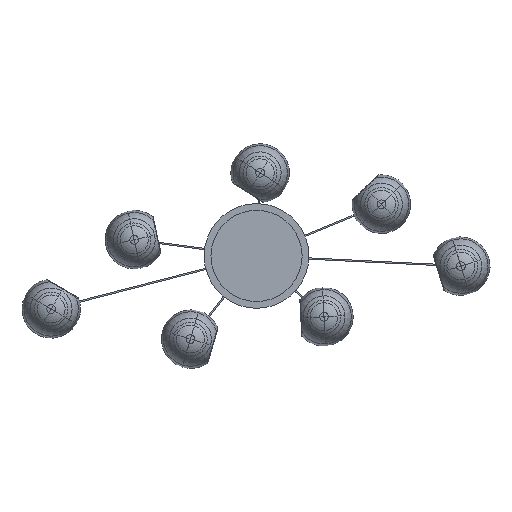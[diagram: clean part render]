
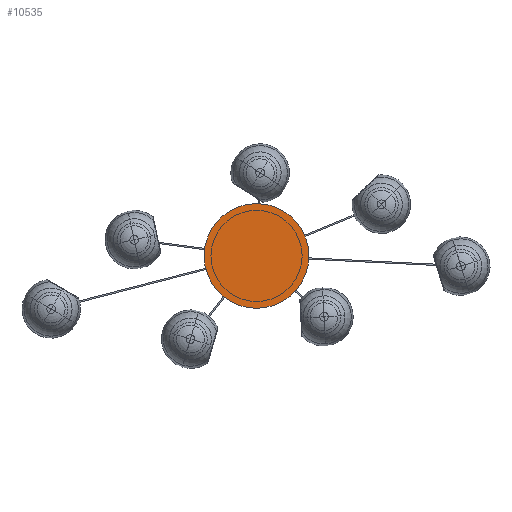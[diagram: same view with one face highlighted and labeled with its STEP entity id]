
A CAD part, front view. The second image highlights one B-rep face of the part: STEP entity #10535.
In plain terms, the highlighted planar face has unit normal (0, -1, 0).
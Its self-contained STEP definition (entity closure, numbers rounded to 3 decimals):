
#100 = CIRCLE ( 'NONE', #16973, 155. ) ;
#710 = FACE_OUTER_BOUND ( 'NONE', #3691, .T. ) ;
#1060 = ORIENTED_EDGE ( 'NONE', *, *, #10068, .T. ) ;
#1162 = VERTEX_POINT ( 'NONE', #14202 ) ;
#1470 = ORIENTED_EDGE ( 'NONE', *, *, #8147, .T. ) ;
#2563 = DIRECTION ( 'NONE',  ( 0., -1., 0. ) ) ;
#3691 = EDGE_LOOP ( 'NONE', ( #1470, #1060 ) ) ;
#4566 = DIRECTION ( 'NONE',  ( 0., 0., -1. ) ) ;
#5635 = CARTESIAN_POINT ( 'NONE',  ( 0., -15., 0. ) ) ;
#5896 = DIRECTION ( 'NONE',  ( 0., -1., 0. ) ) ;
#6093 = CARTESIAN_POINT ( 'NONE',  ( 0., -15., -155. ) ) ;
#6851 = VERTEX_POINT ( 'NONE', #12946 ) ;
#7745 = DIRECTION ( 'NONE',  ( 0., 0., -1. ) ) ;
#7851 = CARTESIAN_POINT ( 'NONE',  ( 0., -15., 0. ) ) ;
#8147 = EDGE_CURVE ( 'NONE', #1162, #6851, #100, .T. ) ;
#8293 = AXIS2_PLACEMENT_3D ( 'NONE', #6093, #13934, #7745 ) ;
#9130 = AXIS2_PLACEMENT_3D ( 'NONE', #5635, #5896, #4566 ) ;
#10068 = EDGE_CURVE ( 'NONE', #6851, #1162, #16713, .T. ) ;
#10535 = ADVANCED_FACE ( 'NONE', ( #710 ), #11644, .T. ) ;
#10785 = DIRECTION ( 'NONE',  ( 0., 0., -1. ) ) ;
#11644 = PLANE ( 'NONE',  #8293 ) ;
#12946 = CARTESIAN_POINT ( 'NONE',  ( 0., -15., 155. ) ) ;
#13934 = DIRECTION ( 'NONE',  ( 0., -1., 0. ) ) ;
#14202 = CARTESIAN_POINT ( 'NONE',  ( 0., -15., -155. ) ) ;
#16713 = CIRCLE ( 'NONE', #9130, 155. ) ;
#16973 = AXIS2_PLACEMENT_3D ( 'NONE', #7851, #2563, #10785 ) ;
